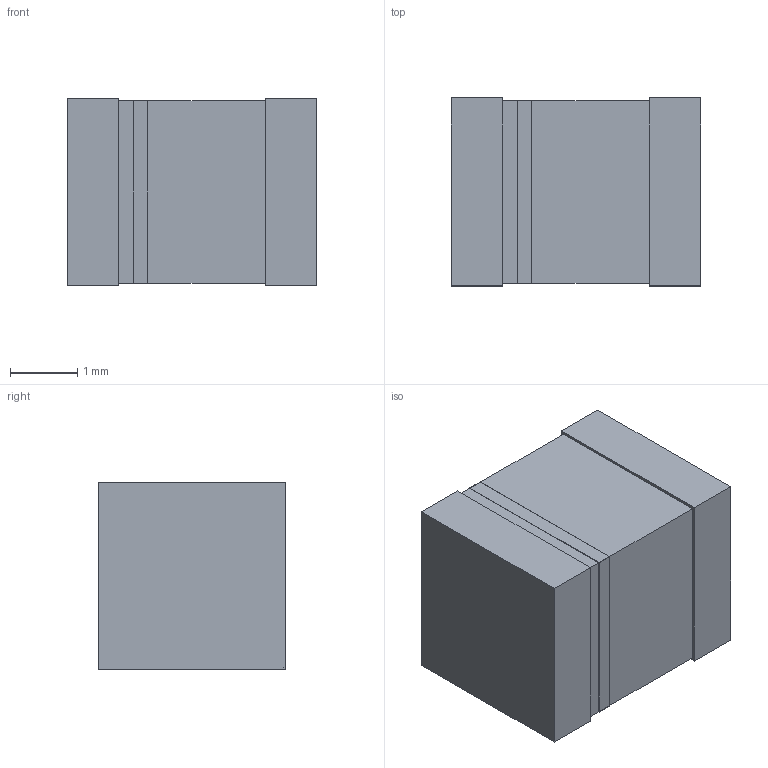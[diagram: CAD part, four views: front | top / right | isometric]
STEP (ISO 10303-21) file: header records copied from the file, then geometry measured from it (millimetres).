
FILE_DESCRIPTION(('STEP AP214'),'1');
FILE_NAME('1210_AVX','2021-09-29T20:06:52',(''),(''),'','','');
FILE_SCHEMA(('AUTOMOTIVE_DESIGN'));
Length unit declared in the file: millimetre
Products named in the file (1): product
Bounding box: 3.71 x 2.79 x 2.79 mm (x, y, z)
Volume: 28 mm3; surface area: 91.5 mm2
Topology: 4 solids, 4 shells, 30 faces, 64 edges, 40 vertices
Faces by surface type: plane 30
Entity records: 799 total; most frequent: ORIENTED_EDGE 128, DIRECTION 126, CARTESIAN_POINT 71, EDGE_CURVE 64, LINE 64, VECTOR 64, VERTEX_POINT 40, AXIS2_PLACEMENT_3D 31
